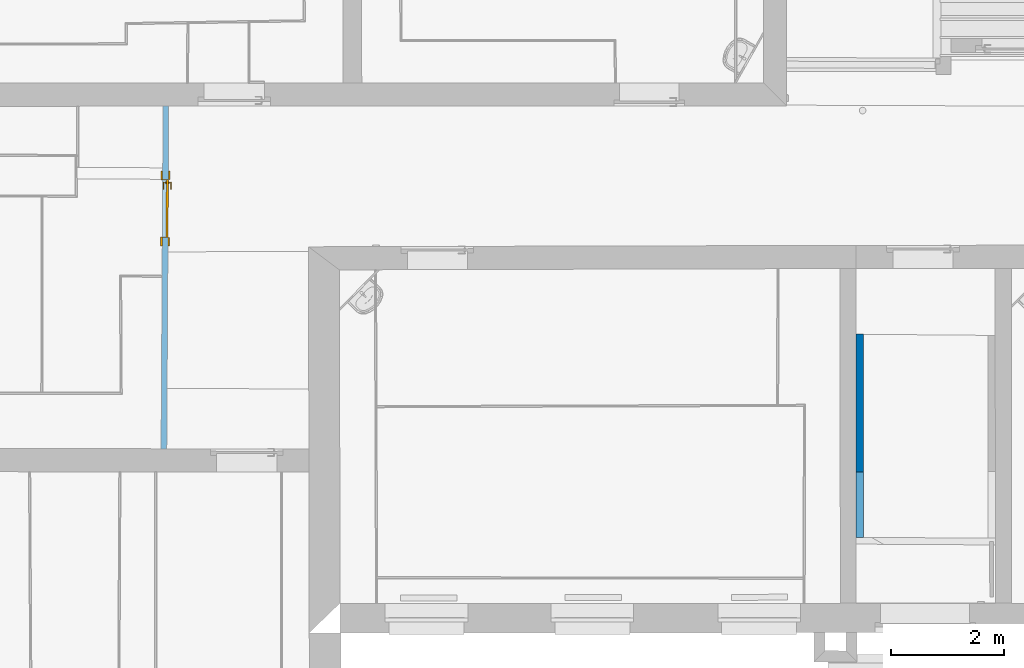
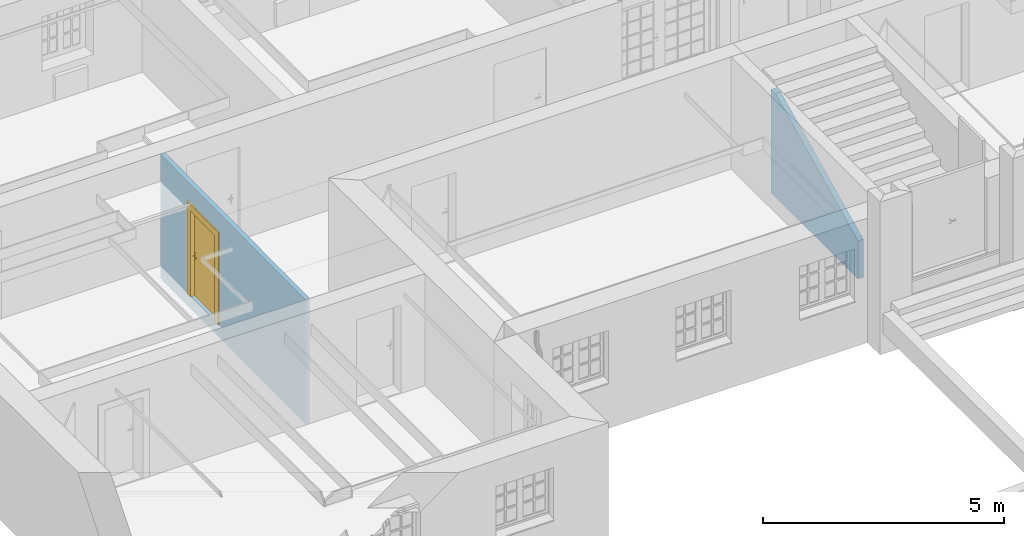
# One storey, part 72 of 196: 1 door, 1 wall, 1 opening, plus 1 element that does not belong to this part.
"""IFC2X3 building model written with IfcOpenShell, lengths in metres."""

from ifc_helpers import new_model, entity, si_unit, converted_unit, derived_unit, money_unit, direction, frame, origin_with_axes, origin_2d_with_axis, place, context, subcontext, project, spatial, polyline, rectangle, outline, extrude, boolean, open_shell, faceted_brep, surface_model, material, layer, layer_set, layer_usage, type_object, element, fill, save


model = new_model("IFC2X3")

# Units and contexts
model_context = context("Model", 3, precision=1e-05, world=origin_with_axes(), true_north=direction((0.0, 1.0)))
body_context = subcontext(model_context, "Body", "Model", "MODEL_VIEW")
ifc_project = project(units=[si_unit("LENGTHUNIT", "METRE"), si_unit("AREAUNIT", "SQUARE_METRE"), si_unit("VOLUMEUNIT", "CUBIC_METRE"), converted_unit("PLANEANGLEUNIT", "DEGREE", entity("IfcPlaneAngleMeasure", 0.0174532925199), si_unit("PLANEANGLEUNIT", "RADIAN"), dimensions=[0, 0, 0, 0, 0, 0, 0]), money_unit("EUR"), converted_unit("TIMEUNIT", "Year", entity("IfcTimeMeasure", 31556926.0), si_unit("TIMEUNIT", "SECOND"), dimensions=[0, 0, 1, 0, 0, 0, 0]), si_unit("MASSUNIT", "GRAM", prefix="KILO"), si_unit("THERMODYNAMICTEMPERATUREUNIT", "DEGREE_CELSIUS"), si_unit("LUMINOUSINTENSITYUNIT", "LUMEN"), si_unit("ENERGYUNIT", "JOULE", prefix="MEGA"), derived_unit("THERMALCONDUCTANCEUNIT", [(si_unit("POWERUNIT", "WATT"), 1), (si_unit("LENGTHUNIT", "METRE"), -1), (si_unit("THERMODYNAMICTEMPERATUREUNIT", "KELVIN"), -1)]), derived_unit("SPECIFICHEATCAPACITYUNIT", [(si_unit("ENERGYUNIT", "JOULE"), 1), (si_unit("MASSUNIT", "GRAM", prefix="KILO"), -1), (si_unit("THERMODYNAMICTEMPERATUREUNIT", "KELVIN"), -1)]), derived_unit("MASSDENSITYUNIT", [(si_unit("MASSUNIT", "GRAM", prefix="KILO"), 1), (si_unit("VOLUMEUNIT", "CUBIC_METRE"), -1)])], contexts=[model_context])

# Site, building, storey
site_placement = place(None, origin_with_axes())
site = spatial("IfcSite", under=ifc_project, at=site_placement, Name="Gelände", CompositionType="ELEMENT")
building_placement = place(site_placement, origin_with_axes())
building = spatial("IfcBuilding", under=site, at=building_placement, Name="Gebäude", CompositionType="ELEMENT")
storey_placement = place(building_placement, frame((0.0, 0.0, -3.0), z_axis=(0.0, 0.0, 1.0), x_axis=(1.0, 0.0, 0.0)))
storey = spatial("IfcBuildingStorey", under=building, at=storey_placement, Name="KELLERGESCHOSS", CompositionType="ELEMENT", Elevation=-3.0)

# Wall, opening, door
ifc_material = material(Name="05_ALLGEMEIN - TRAGENDE BAUTEILE")
ifc_layer = layer(ifc_material, 0.1, ventilated="UNKNOWN")
ifc_layer_set = layer_set([ifc_layer], Name="05_ALLGEMEIN - TRAGENDE BAUTEILE 0.1")
ifc_layer_usage = layer_usage(ifc_layer_set, "AXIS2", "POSITIVE", -0.1)
wall_type_1 = type_object("IfcWallType", Name="05_ALLGEMEIN - TRAGENDE BAUTEILE 100", PredefinedType="ELEMENTEDWALL")
wall_1_placement = place(storey_placement, frame((-20.7831778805, 19.2629593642, -0.36), z_axis=(0.0, 0.0, 1.0), x_axis=(-0.00584518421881, -0.999982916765, 0.0)))
wall_1 = element("IfcWallStandardCase", 1, at=wall_1_placement, inside=storey, type_object=wall_type_1, material=ifc_layer_usage, Name="Wand-037", ObjectType="ELEMENTEDWALL", context=body_context, shape_type="SweptSolid", body=[
    extrude(outline(polyline([(0.000612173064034, -0.1), (6.06612935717, -0.1), (6.06566066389, 0.0), (0.0, 0.0), (0.000612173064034, -0.1)])), origin_with_axes(), (0.0, 0.0, 1.0), 3.15),
])
opening_placement = place(wall_1_placement, frame((1.81115268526, 0.0, 0.340468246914), z_axis=(0.0, 0.0, 1.0), x_axis=(1.0, 0.0, 0.0)))
opening = element("IfcOpeningElement", 2, at=opening_placement, cuts=wall_1, Name="Tür-022", context=body_context, shape_type="SweptSolid", body=[
    extrude(rectangle(XDim=1.03334803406, YDim=2.187668, at=origin_2d_with_axis()), frame((0.0, -0.1, 1.093834), z_axis=(0.0, 1.0, 0.0), x_axis=(1.0, 0.0, 0.0)), (0.0, 0.0, 1.0), 0.3),
])
door_style = type_object("IfcDoorStyle", Name="Blockrahmentür 1-Fl 25", ConstructionType="NOTDEFINED", OperationType="SINGLE_SWING_RIGHT", ParameterTakesPrecedence=False, Sizeable=False)
door_placement = place(opening_placement, frame((-0.50167401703, 0.0, 0.0), z_axis=(0.0, 0.0, 1.0), x_axis=(1.0, 0.0, 0.0)))
door = element("IfcDoor", 3, at=door_placement, inside=storey, type_object=door_style, Name="Tür-022", ObjectType="NOTDEFINED", OverallHeight=2.18767, OverallWidth=1.03335, context=body_context, shape_type="SurfaceModel", body=[
    faceted_brep([(1.01834803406, -0.13, 0.0), (1.01834803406, -0.035, 0.0), (1.01834803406, -0.035, 2.187668), (1.01834803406, -0.13, 2.187668), (1.00334803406, -0.13, 0.0), (1.00334803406, -0.035, 0.0), (1.00334803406, -0.035, 2.172668), (0.61677401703, -0.035, 2.172668), (0.50177401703, -0.035, 2.172668), (0.0, -0.035, 2.172668), (0.0, -0.035, 0.0), (-0.015, -0.035, 0.0), (-0.015, -0.035, 2.187668), (-0.015, -0.13, 2.187668), (-0.015, -0.13, 0.0), (0.0, -0.13, 0.0), (0.0, -0.13, 2.172668), (0.50177401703, -0.13, 2.172668), (0.61677401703, -0.13, 2.172668), (1.00334803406, -0.13, 2.172668)], [[[0, 1, 2, 3]], [[4, 5, 1, 0]], [[1, 5, 6, 7, 8, 9, 10, 11, 12, 2]], [[3, 2, 12, 13]], [[0, 3, 13, 14, 15, 16, 17, 18, 19, 4]], [[19, 6, 5, 4]], [[18, 7, 6, 19]], [[17, 8, 7, 18]], [[16, 9, 8, 17]], [[15, 10, 9, 16]], [[14, 11, 10, 15]], [[13, 12, 11, 14]]]),
    surface_model("IfcShellBasedSurfaceModel", [(1.01834803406, -0.035, 0.0), (1.01834803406, 0.03, 0.0), (1.01834803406, 0.03, 2.187668), (1.01834803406, -0.035, 2.187668), (1.01834803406, -0.035, 2.187668), (1.01834803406, 0.03, 2.187668), (-0.015, 0.03, 2.187668), (0.51677401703, 0.03, 2.187668), (0.60177401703, 0.03, 2.187668), (0.60177401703, -0.035, 2.187668), (0.51677401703, -0.035, 2.187668), (-0.015, -0.035, 2.187668), (-0.015, -0.035, 2.187668), (-0.015, -0.035, 0.0), (-0.015, 0.03, 0.0), (-0.015, 0.03, 2.187668)], [open_shell([[[0, 1, 2, 3]], [[4, 5, 1, 0]], [[6, 7, 8, 2]], [[3, 2, 8, 9]], [[9, 10, 11, 4]], [[12, 6, 5, 4]], [[13, 14, 6, 12]], [[11, 15, 14, 13]], [[10, 7, 15, 11]], [[9, 8, 7, 10]]])]),
    faceted_brep([(1.16334803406, -0.13, 0.0), (1.16334803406, -0.1, 0.0), (1.16334803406, -0.1, 2.332668), (1.16334803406, -0.13, 2.332668), (1.01834803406, -0.13, 0.0), (1.01834803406, -0.1, 0.0), (1.01834803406, -0.1, 2.187668), (-0.015, -0.1, 2.187668), (-0.015, -0.1, 0.0), (-0.16, -0.1, 0.0), (-0.16, -0.1, 2.332668), (-0.16, -0.13, 2.332668), (-0.16, -0.13, 0.0), (-0.015, -0.13, 0.0), (-0.015, -0.13, 2.187668), (1.01834803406, -0.13, 2.187668)], [[[0, 1, 2, 3]], [[4, 5, 1, 0]], [[1, 5, 6, 7, 8, 9, 10, 2]], [[3, 2, 10, 11]], [[0, 3, 11, 12, 13, 14, 15, 4]], [[15, 6, 5, 4]], [[14, 7, 6, 15]], [[13, 8, 7, 14]], [[12, 9, 8, 13]], [[11, 10, 9, 12]]]),
    faceted_brep([(1.16334803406, 0.0, 0.0), (1.16334803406, 0.03, 0.0), (1.16334803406, 0.03, 2.332668), (1.16334803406, 0.0, 2.332668), (1.01834803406, 0.0, 0.0), (1.01834803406, 0.03, 0.0), (1.01834803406, 0.03, 2.187668), (-0.015, 0.03, 2.187668), (-0.015, 0.03, 0.0), (-0.16, 0.03, 0.0), (-0.16, 0.03, 2.332668), (-0.16, 0.0, 2.332668), (-0.16, 0.0, 0.0), (-0.015, 0.0, 0.0), (-0.015, 0.0, 2.187668), (1.01834803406, 0.0, 2.187668)], [[[0, 1, 2, 3]], [[4, 5, 1, 0]], [[1, 5, 6, 7, 8, 9, 10, 2]], [[3, 2, 10, 11]], [[0, 3, 11, 12, 13, 14, 15, 4]], [[15, 6, 5, 4]], [[14, 7, 6, 15]], [[13, 8, 7, 14]], [[12, 9, 8, 13]], [[11, 10, 9, 12]]]),
    faceted_brep([(1.01834803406, 0.002, 0.0), (-0.015, 0.002, 0.0), (-0.015, 0.002, 2.187668), (1.01834803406, 0.002, 2.187668), (1.01834803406, -0.035, 0.0), (-0.015, -0.035, 0.0), (-0.015, -0.035, 2.187668), (1.01834803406, -0.035, 2.187668)], [[[0, 1, 2, 3]], [[1, 0, 4, 5]], [[2, 1, 5, 6]], [[3, 2, 6, 7]], [[0, 3, 7, 4]], [[5, 4, 7, 6]]]),
    faceted_brep([(0.0402977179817, -0.075, 1.05647213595), (0.045, -0.075, 1.058), (0.045, -0.055, 1.058), (0.0402977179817, -0.055, 1.05647213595), (0.0373915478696, -0.075, 1.05247213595), (0.0373915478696, -0.075, 1.04752786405), (0.0402977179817, -0.075, 1.04352786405), (0.045, -0.075, 1.042), (0.0497022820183, -0.075, 1.04352786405), (0.0526084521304, -0.075, 1.04752786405), (0.0526084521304, -0.075, 1.05247213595), (0.0497022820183, -0.075, 1.05647213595), (0.0497022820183, -0.055, 1.05647213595), (0.045, -0.053, 1.06), (0.0391221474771, -0.053, 1.05809016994), (0.0373915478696, -0.055, 1.05247213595), (0.0373915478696, -0.055, 1.04752786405), (0.0402977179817, -0.055, 1.04352786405), (0.045, -0.055, 1.042), (0.0497022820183, -0.055, 1.04352786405), (0.0526084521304, -0.055, 1.04752786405), (0.0526084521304, -0.055, 1.05247213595), (0.0508778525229, -0.053, 1.05809016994), (0.045, -0.045, 1.06), (0.0391221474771, -0.045, 1.05809016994), (0.0354894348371, -0.053, 1.05309016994), (0.0354894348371, -0.053, 1.04690983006), (0.0391221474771, -0.053, 1.04190983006), (0.045, -0.053, 1.04), (0.0508778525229, -0.053, 1.04190983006), (0.054510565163, -0.053, 1.04690983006), (0.054510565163, -0.053, 1.05309016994), (0.0508778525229, -0.045, 1.05809016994), (0.054510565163, -0.045, 1.05309016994), (0.054510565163, -0.045, 1.04690983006), (0.0508778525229, -0.045, 1.04190983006), (0.045, -0.045, 1.04), (0.0391221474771, -0.045, 1.04190983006), (0.0354894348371, -0.045, 1.04690983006), (0.0354894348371, -0.045, 1.05309016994)], [[[0, 1, 2, 3]], [[1, 0, 4, 5, 6, 7, 8, 9, 10, 11]], [[1, 11, 12, 2]], [[3, 2, 13, 14]], [[4, 0, 3, 15]], [[5, 4, 15, 16]], [[6, 5, 16, 17]], [[7, 6, 17, 18]], [[8, 7, 18, 19]], [[9, 8, 19, 20]], [[10, 9, 20, 21]], [[11, 10, 21, 12]], [[2, 12, 22, 13]], [[14, 13, 23, 24]], [[15, 3, 14, 25]], [[16, 15, 25, 26]], [[17, 16, 26, 27]], [[18, 17, 27, 28]], [[19, 18, 28, 29]], [[20, 19, 29, 30]], [[21, 20, 30, 31]], [[12, 21, 31, 22]], [[13, 22, 32, 23]], [[23, 32, 33, 34, 35, 36, 37, 38, 39, 24]], [[25, 14, 24, 39]], [[26, 25, 39, 38]], [[27, 26, 38, 37]], [[28, 27, 37, 36]], [[29, 28, 36, 35]], [[30, 29, 35, 34]], [[31, 30, 34, 33]], [[22, 31, 33, 32]]]),
    faceted_brep([(0.0571883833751, -0.045, 1.11759695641), (0.0494435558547, -0.045, 1.12195567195), (0.0405564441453, -0.045, 1.12195567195), (0.0328116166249, -0.045, 1.11759695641), (0.0282, -0.045, 1.11), (0.0225, -0.045, 1.11), (0.0225, -0.045, 0.89), (0.0282, -0.045, 0.89), (0.0328116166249, -0.045, 0.882403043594), (0.0405564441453, -0.045, 0.878044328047), (0.0494435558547, -0.045, 0.878044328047), (0.0571883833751, -0.045, 0.882403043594), (0.0618, -0.045, 0.89), (0.0675, -0.045, 0.89), (0.0675, -0.045, 1.11), (0.0618, -0.045, 1.11), (0.045, -0.045, 0.967425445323), (0.050375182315, -0.045, 0.965143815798), (0.0524678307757, -0.045, 0.959692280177), (0.05, -0.045, 0.9544), (0.05, -0.045, 0.9375), (0.0485355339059, -0.045, 0.933964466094), (0.045, -0.045, 0.9325), (0.0414644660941, -0.045, 0.933964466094), (0.04, -0.045, 0.9375), (0.04, -0.045, 0.9544), (0.0375321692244, -0.045, 0.959692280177), (0.0396248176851, -0.045, 0.965143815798), (0.0571883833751, -0.035, 1.11759695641), (0.0494435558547, -0.035, 1.12195567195), (0.0405564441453, -0.035, 1.12195567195), (0.0328116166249, -0.035, 1.11759695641), (0.0282, -0.035, 1.11), (0.0225, -0.035, 1.11), (0.0225, -0.035, 0.89), (0.0282, -0.035, 0.89), (0.0328116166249, -0.035, 0.882403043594), (0.0405564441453, -0.035, 0.878044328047), (0.0494435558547, -0.035, 0.878044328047), (0.0571883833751, -0.035, 0.882403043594), (0.0618, -0.035, 0.89), (0.0675, -0.035, 0.89), (0.0675, -0.035, 1.11), (0.0618, -0.035, 1.11), (0.045, -0.035, 0.967425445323), (0.050375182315, -0.035, 0.965143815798), (0.0524678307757, -0.035, 0.959692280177), (0.05, -0.035, 0.9544), (0.05, -0.035, 0.9375), (0.0485355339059, -0.035, 0.933964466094), (0.045, -0.035, 0.9325), (0.0414644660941, -0.035, 0.933964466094), (0.04, -0.035, 0.9375), (0.04, -0.035, 0.9544), (0.0375321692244, -0.035, 0.959692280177), (0.0396248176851, -0.035, 0.965143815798)], [[[0, 1, 2, 3, 4, 5, 6, 7, 8, 9, 10, 11, 12, 13, 14, 15], [16, 17, 18, 19, 20, 21, 22, 23, 24, 25, 26, 27]], [[1, 0, 28, 29]], [[2, 1, 29, 30]], [[3, 2, 30, 31]], [[4, 3, 31, 32]], [[5, 4, 32, 33]], [[6, 5, 33, 34]], [[7, 6, 34, 35]], [[8, 7, 35, 36]], [[9, 8, 36, 37]], [[10, 9, 37, 38]], [[11, 10, 38, 39]], [[12, 11, 39, 40]], [[13, 12, 40, 41]], [[14, 13, 41, 42]], [[15, 14, 42, 43]], [[0, 15, 43, 28]], [[17, 16, 44, 45]], [[18, 17, 45, 46]], [[19, 18, 46, 47]], [[19, 47, 48, 20]], [[20, 48, 49, 21]], [[21, 49, 50, 22]], [[22, 50, 51, 23]], [[23, 51, 52, 24]], [[53, 25, 24, 52]], [[26, 25, 53, 54]], [[27, 26, 54, 55]], [[16, 27, 55, 44]], [[40, 39, 38, 37, 36, 35, 34, 33, 32, 31, 30, 29, 28, 43, 42, 41], [54, 53, 52, 51, 50, 49, 48, 47, 46, 45, 44, 55]]]),
    faceted_brep([(0.159253, -0.075, 1.057158), (0.159253, -0.09, 1.057158), (0.159254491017, -0.09, 1.05719388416), (0.159254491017, -0.075, 1.05719388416), (0.132225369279, -0.075, 1.06432652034), (0.132225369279, -0.09, 1.06432652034), (0.104397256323, -0.09, 1.06706086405), (0.0764912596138, -0.09, 1.06529002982), (0.049232, -0.09, 1.05906), (0.0428294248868, -0.09, 1.05976125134), (0.0373273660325, -0.09, 1.05641280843), (0.0350084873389, -0.09, 1.05040385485), (0.0368348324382, -0.09, 1.04422735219), (0.0420486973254, -0.09, 1.04044577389), (0.0484869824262, -0.09, 1.04062800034), (0.0534786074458, -0.09, 1.04469843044), (0.053458, -0.09, 1.044666), (0.0787467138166, -0.09, 1.05019878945), (0.104589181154, -0.09, 1.05171460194), (0.130351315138, -0.09, 1.04917624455), (0.155401, -0.09, 1.042646), (0.160944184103, -0.09, 1.04356849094), (0.16430572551, -0.09, 1.04807159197), (0.163614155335, -0.09, 1.05364829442), (0.163614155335, -0.075, 1.05364829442), (0.16430572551, -0.075, 1.04807159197), (0.160944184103, -0.075, 1.04356849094), (0.155401, -0.075, 1.042646), (0.130351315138, -0.075, 1.04917624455), (0.104589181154, -0.075, 1.05171460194), (0.0787467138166, -0.075, 1.05019878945), (0.053458, -0.075, 1.044666), (0.0534786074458, -0.075, 1.04469843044), (0.0484869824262, -0.075, 1.04062800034), (0.0420486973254, -0.075, 1.04044577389), (0.0368348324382, -0.075, 1.04422735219), (0.0350084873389, -0.075, 1.05040385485), (0.0373273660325, -0.075, 1.05641280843), (0.0428294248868, -0.075, 1.05976125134), (0.049232, -0.075, 1.05906), (0.0764912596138, -0.075, 1.06529002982), (0.104397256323, -0.075, 1.06706086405)], [[[0, 1, 2, 3]], [[4, 5, 1, 0]], [[1, 5, 6, 7, 8, 9, 10, 11, 12, 13, 14, 15, 16, 17, 18, 19, 20, 21, 22, 23, 2]], [[3, 2, 23, 24]], [[0, 3, 24, 25, 26, 27, 28, 29, 30, 31, 32, 33, 34, 35, 36, 37, 38, 39, 40, 41, 4]], [[41, 6, 5, 4]], [[40, 7, 6, 41]], [[39, 8, 7, 40]], [[38, 9, 8, 39]], [[37, 10, 9, 38]], [[36, 11, 10, 37]], [[35, 12, 11, 36]], [[34, 13, 12, 35]], [[33, 14, 13, 34]], [[32, 15, 14, 33]], [[31, 16, 15, 32]], [[30, 17, 16, 31]], [[29, 18, 17, 30]], [[28, 19, 18, 29]], [[27, 20, 19, 28]], [[26, 21, 20, 27]], [[25, 22, 21, 26]], [[24, 23, 22, 25]]]),
    faceted_brep([(0.0402977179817, 0.042, 1.05647213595), (0.0402977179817, 0.022, 1.05647213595), (0.045, 0.022, 1.058), (0.045, 0.042, 1.058), (0.0373915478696, 0.042, 1.05247213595), (0.0373915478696, 0.022, 1.05247213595), (0.0391221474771, 0.02, 1.05809016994), (0.045, 0.02, 1.06), (0.0497022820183, 0.022, 1.05647213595), (0.0497022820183, 0.042, 1.05647213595), (0.0526084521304, 0.042, 1.05247213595), (0.0526084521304, 0.042, 1.04752786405), (0.0497022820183, 0.042, 1.04352786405), (0.045, 0.042, 1.042), (0.0402977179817, 0.042, 1.04352786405), (0.0373915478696, 0.042, 1.04752786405), (0.0373915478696, 0.022, 1.04752786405), (0.0354894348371, 0.02, 1.05309016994), (0.0391221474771, 0.012, 1.05809016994), (0.045, 0.012, 1.06), (0.0508778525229, 0.02, 1.05809016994), (0.0526084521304, 0.022, 1.05247213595), (0.0526084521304, 0.022, 1.04752786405), (0.0497022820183, 0.022, 1.04352786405), (0.045, 0.022, 1.042), (0.0402977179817, 0.022, 1.04352786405), (0.0354894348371, 0.02, 1.04690983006), (0.035489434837, 0.012, 1.05309016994), (0.035489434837, 0.012, 1.04690983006), (0.0391221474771, 0.012, 1.04190983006), (0.045, 0.012, 1.04), (0.0508778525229, 0.012, 1.04190983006), (0.054510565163, 0.012, 1.04690983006), (0.054510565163, 0.012, 1.05309016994), (0.0508778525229, 0.012, 1.05809016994), (0.054510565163, 0.02, 1.05309016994), (0.054510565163, 0.02, 1.04690983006), (0.0508778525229, 0.02, 1.04190983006), (0.045, 0.02, 1.04), (0.0391221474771, 0.02, 1.04190983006)], [[[0, 1, 2, 3]], [[4, 5, 1, 0]], [[1, 6, 7, 2]], [[3, 2, 8, 9]], [[3, 9, 10, 11, 12, 13, 14, 15, 4, 0]], [[15, 16, 5, 4]], [[5, 17, 6, 1]], [[6, 18, 19, 7]], [[2, 7, 20, 8]], [[9, 8, 21, 10]], [[10, 21, 22, 11]], [[11, 22, 23, 12]], [[12, 23, 24, 13]], [[13, 24, 25, 14]], [[14, 25, 16, 15]], [[16, 26, 17, 5]], [[17, 27, 18, 6]], [[19, 18, 27, 28, 29, 30, 31, 32, 33, 34]], [[7, 19, 34, 20]], [[8, 20, 35, 21]], [[21, 35, 36, 22]], [[22, 36, 37, 23]], [[23, 37, 38, 24]], [[24, 38, 39, 25]], [[25, 39, 26, 16]], [[26, 28, 27, 17]], [[39, 29, 28, 26]], [[38, 30, 29, 39]], [[37, 31, 30, 38]], [[36, 32, 31, 37]], [[35, 33, 32, 36]], [[20, 34, 33, 35]]]),
    faceted_brep([(0.0571883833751, 0.002, 1.11759695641), (0.0494435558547, 0.002, 1.12195567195), (0.0405564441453, 0.002, 1.12195567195), (0.0328116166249, 0.002, 1.11759695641), (0.0282, 0.002, 1.11), (0.0225, 0.002, 1.11), (0.0225, 0.002, 0.89), (0.0282, 0.002, 0.89), (0.0328116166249, 0.002, 0.882403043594), (0.0405564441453, 0.002, 0.878044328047), (0.0494435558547, 0.002, 0.878044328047), (0.0571883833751, 0.002, 0.882403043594), (0.0618, 0.002, 0.89), (0.0675, 0.002, 0.89), (0.0675, 0.002, 1.11), (0.0618, 0.002, 1.11), (0.045, 0.002, 0.967425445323), (0.050375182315, 0.002, 0.965143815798), (0.0524678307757, 0.002, 0.959692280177), (0.05, 0.002, 0.9544), (0.05, 0.002, 0.9375), (0.0485355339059, 0.002, 0.933964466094), (0.045, 0.002, 0.9325), (0.0414644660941, 0.002, 0.933964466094), (0.04, 0.002, 0.9375), (0.04, 0.002, 0.9544), (0.0375321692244, 0.002, 0.959692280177), (0.039624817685, 0.002, 0.965143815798), (0.0494435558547, 0.012, 1.12195567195), (0.0571883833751, 0.012, 1.11759695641), (0.0405564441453, 0.012, 1.12195567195), (0.0328116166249, 0.012, 1.11759695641), (0.0282, 0.012, 1.11), (0.0225, 0.012, 1.11), (0.0225, 0.012, 0.89), (0.0282, 0.012, 0.89), (0.0328116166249, 0.012, 0.882403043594), (0.0405564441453, 0.012, 0.878044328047), (0.0494435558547, 0.012, 0.878044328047), (0.0571883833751, 0.012, 0.882403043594), (0.0618, 0.012, 0.89), (0.0675, 0.012, 0.89), (0.0675, 0.012, 1.11), (0.0618, 0.012, 1.11), (0.045, 0.012, 0.967425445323), (0.050375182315, 0.012, 0.965143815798), (0.0524678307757, 0.012, 0.959692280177), (0.05, 0.012, 0.9544), (0.05, 0.012, 0.9375), (0.0485355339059, 0.012, 0.933964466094), (0.045, 0.012, 0.9325), (0.0414644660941, 0.012, 0.933964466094), (0.04, 0.012, 0.9375), (0.04, 0.012, 0.9544), (0.0375321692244, 0.012, 0.959692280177), (0.039624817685, 0.012, 0.965143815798)], [[[0, 1, 2, 3, 4, 5, 6, 7, 8, 9, 10, 11, 12, 13, 14, 15], [16, 17, 18, 19, 20, 21, 22, 23, 24, 25, 26, 27]], [[28, 1, 0, 29]], [[30, 2, 1, 28]], [[31, 3, 2, 30]], [[32, 4, 3, 31]], [[33, 5, 4, 32]], [[34, 6, 5, 33]], [[35, 7, 6, 34]], [[36, 8, 7, 35]], [[37, 9, 8, 36]], [[38, 10, 9, 37]], [[39, 11, 10, 38]], [[40, 12, 11, 39]], [[41, 13, 12, 40]], [[42, 14, 13, 41]], [[43, 15, 14, 42]], [[29, 0, 15, 43]], [[17, 16, 44, 45]], [[18, 17, 45, 46]], [[19, 18, 46, 47]], [[19, 47, 48, 20]], [[20, 48, 49, 21]], [[21, 49, 50, 22]], [[22, 50, 51, 23]], [[23, 51, 52, 24]], [[53, 25, 24, 52]], [[26, 25, 53, 54]], [[27, 26, 54, 55]], [[16, 27, 55, 44]], [[40, 39, 38, 37, 36, 35, 34, 33, 32, 31, 30, 28, 29, 43, 42, 41], [54, 53, 52, 51, 50, 49, 48, 47, 46, 45, 44, 55]]]),
    faceted_brep([(0.159253, 0.042, 1.057158), (0.159254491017, 0.042, 1.05719388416), (0.159254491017, 0.057, 1.05719388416), (0.159253, 0.057, 1.057158), (0.132225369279, 0.042, 1.06432652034), (0.104397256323, 0.042, 1.06706086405), (0.0764912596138, 0.042, 1.06529002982), (0.049232, 0.042, 1.05906), (0.0428294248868, 0.042, 1.05976125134), (0.0373273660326, 0.042, 1.05641280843), (0.0350084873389, 0.042, 1.05040385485), (0.0368348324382, 0.042, 1.04422735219), (0.0420486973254, 0.042, 1.04044577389), (0.0484869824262, 0.042, 1.04062800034), (0.0534786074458, 0.042, 1.04469843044), (0.053458, 0.042, 1.044666), (0.0787467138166, 0.042, 1.05019878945), (0.104589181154, 0.042, 1.05171460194), (0.130351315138, 0.042, 1.04917624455), (0.155401, 0.042, 1.042646), (0.160944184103, 0.042, 1.04356849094), (0.16430572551, 0.042, 1.04807159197), (0.163614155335, 0.042, 1.05364829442), (0.163614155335, 0.057, 1.05364829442), (0.16430572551, 0.057, 1.04807159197), (0.160944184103, 0.057, 1.04356849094), (0.155401, 0.057, 1.042646), (0.130351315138, 0.057, 1.04917624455), (0.104589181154, 0.057, 1.05171460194), (0.0787467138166, 0.057, 1.05019878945), (0.053458, 0.057, 1.044666), (0.0534786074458, 0.057, 1.04469843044), (0.0484869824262, 0.057, 1.04062800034), (0.0420486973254, 0.057, 1.04044577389), (0.0368348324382, 0.057, 1.04422735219), (0.0350084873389, 0.057, 1.05040385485), (0.0373273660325, 0.057, 1.05641280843), (0.0428294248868, 0.057, 1.05976125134), (0.049232, 0.057, 1.05906), (0.0764912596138, 0.057, 1.06529002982), (0.104397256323, 0.057, 1.06706086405), (0.132225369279, 0.057, 1.06432652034)], [[[0, 1, 2, 3]], [[0, 4, 5, 6, 7, 8, 9, 10, 11, 12, 13, 14, 15, 16, 17, 18, 19, 20, 21, 22, 1]], [[1, 22, 23, 2]], [[3, 2, 23, 24, 25, 26, 27, 28, 29, 30, 31, 32, 33, 34, 35, 36, 37, 38, 39, 40, 41]], [[4, 0, 3, 41]], [[5, 4, 41, 40]], [[6, 5, 40, 39]], [[7, 6, 39, 38]], [[8, 7, 38, 37]], [[9, 8, 37, 36]], [[10, 9, 36, 35]], [[11, 10, 35, 34]], [[12, 11, 34, 33]], [[13, 12, 33, 32]], [[14, 13, 32, 31]], [[15, 14, 31, 30]], [[16, 15, 30, 29]], [[17, 16, 29, 28]], [[18, 17, 28, 27]], [[19, 18, 27, 26]], [[20, 19, 26, 25]], [[21, 20, 25, 24]], [[22, 21, 24, 23]]]),
])
fill(opening, door)

# Wall
wall_type_2 = type_object("IfcWallType", Name="05_ALLGEMEIN - TRAGENDE BAUTEILE 130", PredefinedType="ELEMENTEDWALL")
wall_2_placement = place(storey_placement, frame((-8.61471782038, 15.2256467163, -0.36), z_axis=(0.0, 0.0, 1.0), x_axis=(0.000802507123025, -0.999999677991, 0.0)))
element("IfcWall", 4, at=wall_2_placement, inside=storey, type_object=wall_type_2, material=ifc_material, Name="Wand-037", ObjectType="ELEMENTEDWALL", context=body_context, shape_type="CSG", body=[
    boolean("DIFFERENCE", boolean("DIFFERENCE", extrude(outline(polyline([(0.0, 0.0), (3.59684436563, 0.0), (3.59684436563, 0.13), (0.0, 0.13), (0.0, 0.0)])), origin_with_axes(), (0.0, 0.0, 1.0), 3.065), faceted_brep([(0.0, 0.13, 0.31957191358), (3.59684436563, 0.13, 0.31957191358), (3.59684436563, 0.13, 0.0), (0.0, 0.13, 0.0), (3.59684436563, 0.0, 0.31957191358), (0.0, 0.0, 0.31957191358), (3.59684436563, 0.0, 0.0), (0.0, 0.0, 0.0)], [[[0, 1, 2, 3]], [[4, 1, 0, 5]], [[1, 4, 6, 2]], [[6, 7, 3, 2]], [[5, 0, 3, 7]], [[4, 5, 7, 6]]])), faceted_brep([(3.59684436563, 0.0, 1.28484507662), (3.59684436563, 0.13, 1.28484507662), (3.59684436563, 0.13, 3.065), (3.59684436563, 0.0, 3.065), (3.57205228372, 0.13, 1.29685454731), (3.57205228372, 0.0, 1.29685454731), (0.179979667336, 0.13, 2.94), (0.0, 0.13, 2.94), (0.0, 0.13, 3.065), (3.48983482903, 0.13, 1.33668129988), (3.40761737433, 0.13, 1.37650805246), (3.32539991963, 0.13, 1.41633480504), (3.24318246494, 0.13, 1.45616155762), (3.16096501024, 0.13, 1.49598831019), (3.07874755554, 0.13, 1.53581506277), (2.99653010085, 0.13, 1.57564181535), (2.91431264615, 0.13, 1.61546856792), (2.83209519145, 0.13, 1.6552953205), (2.74987773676, 0.13, 1.69512207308), (2.66766028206, 0.13, 1.73494882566), (2.58544282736, 0.13, 1.77477557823), (2.50322537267, 0.13, 1.81460233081), (2.42100791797, 0.13, 1.85442908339), (2.33879046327, 0.13, 1.89425583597), (2.25657300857, 0.13, 1.93408258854), (2.17435555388, 0.13, 1.97390934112), (2.09213809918, 0.13, 2.0137360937), (2.00992064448, 0.13, 2.05356284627), (1.92770318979, 0.13, 2.09338959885), (1.84548573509, 0.13, 2.13321635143), (1.76326828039, 0.13, 2.17304310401), (1.6810508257, 0.13, 2.21286985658), (1.598833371, 0.13, 2.25269660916), (1.5166159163, 0.13, 2.29252336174), (1.43439846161, 0.13, 2.33235011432), (1.35218100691, 0.13, 2.37217686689), (1.26996355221, 0.13, 2.41200361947), (1.18774609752, 0.13, 2.45183037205), (1.10552864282, 0.13, 2.49165712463), (1.02331118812, 0.13, 2.5314838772), (0.941093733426, 0.13, 2.57131062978), (0.858876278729, 0.13, 2.61113738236), (0.776658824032, 0.13, 2.65096413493), (0.694441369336, 0.13, 2.69079088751), (0.612223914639, 0.13, 2.73061764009), (0.530006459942, 0.13, 2.77044439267), (0.447789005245, 0.13, 2.81027114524), (0.365571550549, 0.13, 2.85009789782), (0.283354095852, 0.13, 2.8899246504), (0.201136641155, 0.13, 2.92975140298), (0.0, 0.0, 3.065), (0.0, 0.0, 2.94), (0.179979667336, 0.0, 2.94), (0.201136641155, 0.0, 2.92975140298), (0.283354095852, 0.0, 2.8899246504), (0.365571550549, 0.0, 2.85009789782), (0.447789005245, 0.0, 2.81027114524), (0.530006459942, 0.0, 2.77044439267), (0.612223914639, 0.0, 2.73061764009), (0.694441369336, 0.0, 2.69079088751), (0.776658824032, 0.0, 2.65096413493), (0.858876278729, 0.0, 2.61113738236), (0.941093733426, 0.0, 2.57131062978), (1.02331118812, 0.0, 2.5314838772), (1.10552864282, 0.0, 2.49165712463), (1.18774609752, 0.0, 2.45183037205), (1.26996355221, 0.0, 2.41200361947), (1.35218100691, 0.0, 2.37217686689), (1.43439846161, 0.0, 2.33235011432), (1.5166159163, 0.0, 2.29252336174), (1.598833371, 0.0, 2.25269660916), (1.6810508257, 0.0, 2.21286985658), (1.76326828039, 0.0, 2.17304310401), (1.84548573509, 0.0, 2.13321635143), (1.92770318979, 0.0, 2.09338959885), (2.00992064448, 0.0, 2.05356284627), (2.09213809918, 0.0, 2.0137360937), (2.17435555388, 0.0, 1.97390934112), (2.25657300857, 0.0, 1.93408258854), (2.33879046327, 0.0, 1.89425583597), (2.42100791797, 0.0, 1.85442908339), (2.50322537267, 0.0, 1.81460233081), (2.58544282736, 0.0, 1.77477557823), (2.66766028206, 0.0, 1.73494882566), (2.74987773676, 0.0, 1.69512207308), (2.83209519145, 0.0, 1.6552953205), (2.91431264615, 0.0, 1.61546856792), (2.99653010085, 0.0, 1.57564181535), (3.07874755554, 0.0, 1.53581506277), (3.16096501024, 0.0, 1.49598831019), (3.24318246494, 0.0, 1.45616155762), (3.32539991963, 0.0, 1.41633480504), (3.40761737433, 0.0, 1.37650805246), (3.48983482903, 0.0, 1.33668129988)], [[[0, 1, 2, 3]], [[4, 1, 0, 5]], [[6, 7, 8, 2, 1, 4, 9, 10, 11, 12, 13, 14, 15, 16, 17, 18, 19, 20, 21, 22, 23, 24, 25, 26, 27, 28, 29, 30, 31, 32, 33, 34, 35, 36, 37, 38, 39, 40, 41, 42, 43, 44, 45, 46, 47, 48, 49]], [[8, 50, 3, 2]], [[5, 0, 3, 50, 51, 52, 53, 54, 55, 56, 57, 58, 59, 60, 61, 62, 63, 64, 65, 66, 67, 68, 69, 70, 71, 72, 73, 74, 75, 76, 77, 78, 79, 80, 81, 82, 83, 84, 85, 86, 87, 88, 89, 90, 91, 92, 93]], [[9, 4, 5, 93]], [[7, 6, 52, 51]], [[7, 51, 50, 8]], [[10, 9, 93, 92]], [[11, 10, 92, 91]], [[12, 11, 91, 90]], [[13, 12, 90, 89]], [[14, 13, 89, 88]], [[15, 14, 88, 87]], [[16, 15, 87, 86]], [[17, 16, 86, 85]], [[18, 17, 85, 84]], [[19, 18, 84, 83]], [[20, 19, 83, 82]], [[21, 20, 82, 81]], [[22, 21, 81, 80]], [[23, 22, 80, 79]], [[24, 23, 79, 78]], [[25, 24, 78, 77]], [[26, 25, 77, 76]], [[27, 26, 76, 75]], [[28, 27, 75, 74]], [[29, 28, 74, 73]], [[30, 29, 73, 72]], [[31, 30, 72, 71]], [[32, 31, 71, 70]], [[33, 32, 70, 69]], [[34, 33, 69, 68]], [[35, 34, 68, 67]], [[36, 35, 67, 66]], [[37, 36, 66, 65]], [[38, 37, 65, 64]], [[39, 38, 64, 63]], [[40, 39, 63, 62]], [[41, 40, 62, 61]], [[42, 41, 61, 60]], [[43, 42, 60, 59]], [[44, 43, 59, 58]], [[45, 44, 58, 57]], [[46, 45, 57, 56]], [[47, 46, 56, 55]], [[48, 47, 55, 54]], [[49, 48, 54, 53]], [[6, 49, 53, 52]]])),
])

save(model, "model.ifc")
